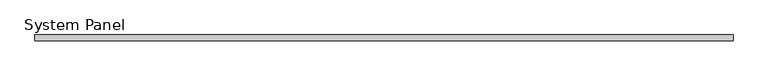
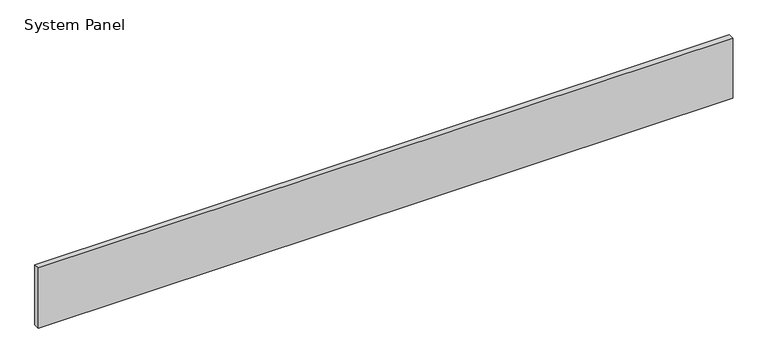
"""IFC4 building model written with IfcOpenShell, lengths in millimetres: plate geometry, System Panel : MetecnoPanel_100mm_Plain_Surfmist."""

import ifcopenshell
import ifcopenshell.guid

model = None  # the IFC model being written
_history = None  # IfcOwnerHistory: only IFC2X3 demands one
_inside = {}  # id of a spatial element -> (the spatial element, [elements in it])
_under = {}  # id of a project, library or spatial element -> (it, [spatial elements below it])
_declared = {}  # id of a project -> (the project, [libraries it declares])
_typed = {}  # id of a type object -> (the type object, [elements of that type])
_made_of = {}  # id of a material, layer set ... -> (it, [elements and type objects made of it])


def new_model(schema):
    """Start an empty IFC model of exactly this schema.

    Asked for "IFC4X3", IfcOpenShell would pick the latest addendum, in which some entities
    have other attributes; the version numbers below select the first issue.
    IFC2X3 requires an IfcOwnerHistory on every rooted entity: one is made here for all.
    """
    global model, _history
    if schema == "IFC4X3":
        model = ifcopenshell.file(schema_version=(4, 3, 0, 0))
    else:
        model = ifcopenshell.file(schema=schema)
    _inside.clear()
    _under.clear()
    _declared.clear()
    _typed.clear()
    _made_of.clear()
    _history = None
    if model.schema == "IFC2X3":
        org = make("IfcOrganization", Name="unknown")
        user = make(
            "IfcPersonAndOrganization",
            ThePerson=make("IfcPerson", FamilyName="unknown"),
            TheOrganization=org,
        )
        app = make(
            "IfcApplication",
            ApplicationDeveloper=org,
            Version="unknown",
            ApplicationFullName="unknown",
            ApplicationIdentifier="unknown",
        )
        _history = make(
            "IfcOwnerHistory",
            OwningUser=user,
            OwningApplication=app,
            ChangeAction="ADDED",
            CreationDate=0,
        )
    return model


def make(cls, **values):
    """One entity of the class cls with the attributes given. An attribute that is None is left unset."""
    return model.create_entity(
        cls, **{name: value for name, value in values.items() if value is not None}
    )


def rooted(cls, **values):
    """An entity with a GlobalId (a new one), such as an element, a storey or a relation."""
    return make(cls, GlobalId=ifcopenshell.guid.new(), OwnerHistory=_history, **values)


def si_unit(unit_type, name, prefix=None):
    """IfcSIUnit, for example si_unit("LENGTHUNIT", "METRE", prefix="MILLI")."""
    return make("IfcSIUnit", UnitType=unit_type, Prefix=prefix, Name=name)


def assignment(units):
    """IfcUnitAssignment: the units of a project."""
    return None if units is None else make("IfcUnitAssignment", Units=units)


def point(xyz):
    """IfcCartesianPoint."""
    return None if xyz is None else make("IfcCartesianPoint", Coordinates=xyz)


def direction(xyz):
    """IfcDirection."""
    return None if xyz is None else make("IfcDirection", DirectionRatios=xyz)


def frame(location, z_axis=None, x_axis=None):
    """IfcAxis2Placement3D, a coordinate frame: its origin and axes. An axis left out is left unset."""
    return make(
        "IfcAxis2Placement3D",
        Location=point(location),
        Axis=direction(z_axis),
        RefDirection=direction(x_axis),
    )


def origin():
    """The frame at (0, 0, 0) with its axes left unset."""
    return frame((0.0, 0.0, 0.0))


def origin_with_axes():
    """The frame at (0, 0, 0) with the z axis (0, 0, 1) and the x axis (1, 0, 0) written out."""
    return frame((0.0, 0.0, 0.0), z_axis=(0.0, 0.0, 1.0), x_axis=(1.0, 0.0, 0.0))


def place(relative_to, where):
    """IfcLocalPlacement: puts the frame where relative to a parent placement (None: the world)."""
    return make(
        "IfcLocalPlacement", PlacementRelTo=relative_to, RelativePlacement=where
    )


def context(
    kind, dimensions, precision=None, world=None, true_north=None, identifier=None
):
    """IfcGeometricRepresentationContext, for example the 3D "Model" context."""
    return make(
        "IfcGeometricRepresentationContext",
        ContextIdentifier=identifier,
        ContextType=kind,
        CoordinateSpaceDimension=dimensions,
        Precision=precision,
        WorldCoordinateSystem=world,
        TrueNorth=true_north,
    )


def project(units=None, contexts=None):
    """IfcProject with its units and contexts."""
    return rooted(
        "IfcProject",
        Name="project",
        RepresentationContexts=contexts,
        UnitsInContext=assignment(units),
    )


def spatial(cls, under=None, at=None, **own):
    """A site, building, storey or space (cls), placed at a placement, below another one or the project."""
    s = rooted(cls, ObjectPlacement=at, **own)
    if under is not None:
        _under.setdefault(under.id(), (under, []))[1].append(s)
    return s


def polyline(points):
    """IfcPolyline through the points."""
    return make("IfcPolyline", Points=[point(p) for p in points])


def outline(outer, holes=None, kind="AREA"):
    """IfcArbitraryClosedProfileDef: a profile drawn as a closed curve; with holes, ...WithVoids."""
    if holes is None:
        return make("IfcArbitraryClosedProfileDef", ProfileType=kind, OuterCurve=outer)
    return make(
        "IfcArbitraryProfileDefWithVoids",
        ProfileType=kind,
        OuterCurve=outer,
        InnerCurves=holes,
    )


def extrude(swept, where, along, depth):
    """IfcExtrudedAreaSolid: the profile swept, set in the frame where, extruded along a direction by depth."""
    return make(
        "IfcExtrudedAreaSolid",
        SweptArea=swept,
        Position=where,
        ExtrudedDirection=direction(along),
        Depth=depth,
    )


def shape(context_of_items, identifier, shape_type, items):
    """IfcShapeRepresentation: the items that make up one representation, for example the "Body"."""
    return make(
        "IfcShapeRepresentation",
        ContextOfItems=context_of_items,
        RepresentationIdentifier=identifier,
        RepresentationType=shape_type,
        Items=items,
    )


def source(mapping_origin, context_of_items, identifier, shape_type, items):
    """IfcRepresentationMap: a shape defined once, which mapped items show again and again."""
    return make(
        "IfcRepresentationMap",
        MappingOrigin=mapping_origin,
        MappedRepresentation=shape(context_of_items, identifier, shape_type, items),
    )


def transform(
    local_origin,
    x_axis=None,
    y_axis=None,
    z_axis=None,
    scale=None,
    scale2=None,
    scale3=None,
    uniform=True,
):
    """IfcCartesianTransformationOperator3D, or its non-uniform kind. x_axis, y_axis, z_axis: its Axis1, 2, 3."""
    if uniform:
        return make(
            "IfcCartesianTransformationOperator3D",
            Axis1=direction(x_axis),
            Axis2=direction(y_axis),
            LocalOrigin=point(local_origin),
            Scale=scale,
            Axis3=direction(z_axis),
        )
    return make(
        "IfcCartesianTransformationOperator3DnonUniform",
        Axis1=direction(x_axis),
        Axis2=direction(y_axis),
        LocalOrigin=point(local_origin),
        Scale=scale,
        Axis3=direction(z_axis),
        Scale2=scale2,
        Scale3=scale3,
    )


def mapped(mapping_source, mapping_target):
    """IfcMappedItem: shows the shape of a source again, moved by a transform."""
    return make(
        "IfcMappedItem", MappingSource=mapping_source, MappingTarget=mapping_target
    )


def made_of(thing, what):
    """Note that an element or type object is made of a material, layer set ...; save() writes the relation."""
    if what is not None:
        _made_of.setdefault(what.id(), (what, []))[1].append(thing)
    return thing


def element(
    cls,
    number,
    at=None,
    inside=None,
    cuts=None,
    type_object=None,
    material=None,
    context=None,
    identifier="Body",
    shape_type=None,
    held_by="IfcProductDefinitionShape",
    body=None,
    shapes=None,
    **own,
):
    """One element of the class cls, such as IfcWall. Its Tag is "e" and its number.

    at: its placement. inside: the storey or other place that contains it. cuts: it is an
    opening in that element (IfcRelVoidsElement). A single representation is given by context,
    identifier, shape_type and body (its items); several are given by shapes. held_by: the class
    of the entity that holds the representations. save() writes the other relations.
    """
    e = rooted(cls, Tag="e%d" % number, ObjectPlacement=at, **own)
    if body is not None:
        shapes = [shape(context, identifier, shape_type, body)]
    if shapes is not None:
        e.Representation = make(held_by, Representations=shapes)
    if inside is not None:
        _inside.setdefault(inside.id(), (inside, []))[1].append(e)
    if cuts is not None:
        rooted(
            "IfcRelVoidsElement", RelatingBuildingElement=cuts, RelatedOpeningElement=e
        )
    if type_object is not None:
        _typed.setdefault(type_object.id(), (type_object, []))[1].append(e)
    return made_of(e, material)


def aggregate(whole, parts):
    """IfcRelAggregates: a whole, such as a stair, and the parts it consists of."""
    return rooted("IfcRelAggregates", RelatingObject=whole, RelatedObjects=parts)


def save(model, path):
    """Write the relations noted so far, then the file.

    IfcRelAggregates (storeys below a building ...), IfcRelContainedInSpatialStructure (elements
    in a storey), IfcRelDefinesByType, IfcRelAssociatesMaterial and IfcRelDeclares: one each for
    every whole, place, type object, material and project.
    """
    for whole, parts in _under.values():
        aggregate(whole, parts)
    for where, things in _inside.values():
        rooted(
            "IfcRelContainedInSpatialStructure",
            RelatedElements=things,
            RelatingStructure=where,
        )
    for kind, things in _typed.values():
        rooted("IfcRelDefinesByType", RelatedObjects=things, RelatingType=kind)
    for what, things in _made_of.values():
        rooted("IfcRelAssociatesMaterial", RelatedObjects=things, RelatingMaterial=what)
    for by, libraries in _declared.values():
        rooted("IfcRelDeclares", RelatingContext=by, RelatedDefinitions=libraries)
    model.write(path)


def system_panel_0b45720e(model_context):
    return source(origin(), model_context, "Body", "SweptSolid", [
        extrude(outline(polyline([(6000.0, 0.0), (-6000.0, 0.0), (-6000.0, 100.0), (6000.0, 100.0), (6000.0, 0.0)])), origin_with_axes(), (0.0, 0.0, 1.0), 1100.0),
    ])


if __name__ == "__main__":
    model = new_model("IFC4")
    model_context = context("Model", 3, world=origin())
    ifc_project = project(units=[si_unit("LENGTHUNIT", "METRE", prefix="MILLI")], contexts=[model_context])
    site = spatial("IfcSite", under=ifc_project)
    building = spatial("IfcBuilding", under=site)
    placement = place(None, origin())
    system_panel_shape = system_panel_0b45720e(model_context)
    element("IfcPlate", 1, ObjectType="System Panel : MetecnoPanel_100mm_Plain_Surfmist", at=placement, inside=building, context=model_context, shape_type="MappedRepresentation", body=[
        mapped(system_panel_shape, transform((0.0, 0.0, 0.0), x_axis=(1.0, 0.0, 0.0), y_axis=(0.0, 1.0, 0.0), z_axis=(0.0, 0.0, 1.0))),
    ])
    save(model, "model.ifc")
